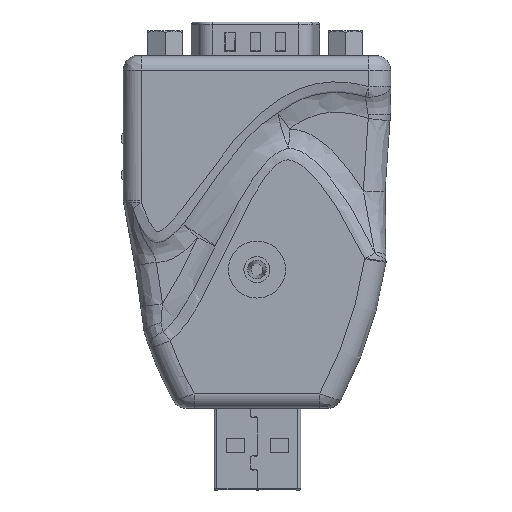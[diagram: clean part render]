
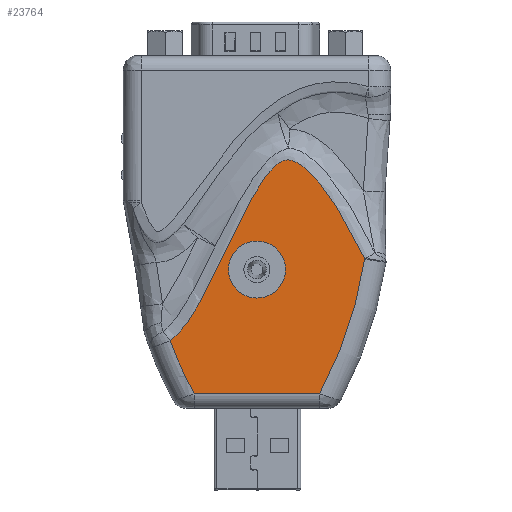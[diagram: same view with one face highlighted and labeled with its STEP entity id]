
A CAD part, front view. The second image highlights one B-rep face of the part: STEP entity #23764.
In plain terms, the highlighted planar face has unit normal (0, -1, 0).
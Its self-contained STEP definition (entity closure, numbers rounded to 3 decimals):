
#415=FACE_BOUND('',#5105,.T.);
#838=PLANE('',#25796);
#1566=B_SPLINE_CURVE_WITH_KNOTS('',3,(#58831,#58832,#58833,#58834,#58835,
#58836,#58837,#58838,#58839,#58840,#58841,#58842,#58843,#58844,#58845,#58846,
#58847,#58848,#58849,#58850,#58851,#58852,#58853),.UNSPECIFIED.,.F.,.F.,
(4,1,1,1,1,1,1,1,1,1,1,1,1,1,1,1,1,1,1,1,4),(0.173,0.86,
1.203,1.547,1.718,1.804,1.89,
1.933,1.976,2.019,2.062,2.147,
2.233,2.319,2.405,2.577,2.92,
3.778,4.293,4.637,4.98),
 .UNSPECIFIED.);
#2317=CIRCLE('',#25732,3.95);
#2351=CIRCLE('',#25790,56.046);
#2356=CIRCLE('',#25797,56.046);
#2357=CIRCLE('',#25798,56.046);
#3576=FACE_OUTER_BOUND('',#5104,.T.);
#5104=EDGE_LOOP('',(#19603,#19604,#19605,#19606,#19607));
#5105=EDGE_LOOP('',(#19608));
#6906=LINE('',#58826,#8769);
#8769=VECTOR('',#30643,10.);
#10895=VERTEX_POINT('',#55615);
#10947=VERTEX_POINT('',#58573);
#10949=VERTEX_POINT('',#58583);
#10964=VERTEX_POINT('',#58825);
#10965=VERTEX_POINT('',#58827);
#10966=VERTEX_POINT('',#58829);
#13880=EDGE_CURVE('',#10895,#10895,#2317,.T.);
#13980=EDGE_CURVE('',#10949,#10947,#2351,.T.);
#14000=EDGE_CURVE('',#10947,#10964,#6906,.T.);
#14001=EDGE_CURVE('',#10964,#10965,#2356,.T.);
#14002=EDGE_CURVE('',#10965,#10966,#2357,.T.);
#14003=EDGE_CURVE('',#10966,#10949,#1566,.T.);
#19603=ORIENTED_EDGE('',*,*,#13980,.T.);
#19604=ORIENTED_EDGE('',*,*,#14000,.T.);
#19605=ORIENTED_EDGE('',*,*,#14001,.T.);
#19606=ORIENTED_EDGE('',*,*,#14002,.T.);
#19607=ORIENTED_EDGE('',*,*,#14003,.T.);
#19608=ORIENTED_EDGE('',*,*,#13880,.T.);
#23764=ADVANCED_FACE('',(#3576,#415),#838,.F.);
#25732=AXIS2_PLACEMENT_3D('',#55617,#30502,#30503);
#25790=AXIS2_PLACEMENT_3D('',#58586,#30629,#30630);
#25796=AXIS2_PLACEMENT_3D('',#58824,#30641,#30642);
#25797=AXIS2_PLACEMENT_3D('',#58828,#30644,#30645);
#25798=AXIS2_PLACEMENT_3D('',#58830,#30646,#30647);
#30502=DIRECTION('center_axis',(0.,1.,0.));
#30503=DIRECTION('ref_axis',(-1.,0.,0.));
#30629=DIRECTION('center_axis',(0.,-1.,0.));
#30630=DIRECTION('ref_axis',(-0.915,0.,-0.403));
#30641=DIRECTION('center_axis',(0.,1.,0.));
#30642=DIRECTION('ref_axis',(1.,0.,0.));
#30643=DIRECTION('',(1.,0.,0.));
#30644=DIRECTION('center_axis',(0.,-1.,0.));
#30645=DIRECTION('ref_axis',(0.941,0.,-0.338));
#30646=DIRECTION('center_axis',(0.,-1.,0.));
#30647=DIRECTION('ref_axis',(0.976,0.,-0.216));
#55615=CARTESIAN_POINT('',(3.95,-9.25,-29.6));
#55617=CARTESIAN_POINT('Origin',(0.,-9.25,-29.6));
#58573=CARTESIAN_POINT('',(-8.677,-9.25,-46.8));
#58583=CARTESIAN_POINT('',(-12.012,-9.25,-39.463));
#58586=CARTESIAN_POINT('Origin',(40.546,-9.25,-20.));
#58824=CARTESIAN_POINT('Origin',(0.,-9.25,-24.4));
#58825=CARTESIAN_POINT('',(8.677,-9.25,-46.8));
#58826=CARTESIAN_POINT('',(5.5,-9.25,-46.8));
#58827=CARTESIAN_POINT('',(14.902,-9.25,-28.163));
#58828=CARTESIAN_POINT('Origin',(-40.546,-9.25,-20.));
#58829=CARTESIAN_POINT('',(14.919,-9.25,-28.048));
#58830=CARTESIAN_POINT('Origin',(-40.546,-9.25,-20.));
#58831=CARTESIAN_POINT('Ctrl Pts',(14.919,-9.25,-28.048));
#58832=CARTESIAN_POINT('Ctrl Pts',(13.928,-9.25,-25.98));
#58833=CARTESIAN_POINT('Ctrl Pts',(12.34,-9.25,-22.914));
#58834=CARTESIAN_POINT('Ctrl Pts',(9.873,-9.25,-19.066));
#58835=CARTESIAN_POINT('Ctrl Pts',(8.077,-9.25,-16.804));
#58836=CARTESIAN_POINT('Ctrl Pts',(6.597,-9.25,-15.45));
#58837=CARTESIAN_POINT('Ctrl Pts',(5.631,-9.25,-14.813));
#58838=CARTESIAN_POINT('Ctrl Pts',(4.973,-9.25,-14.524));
#58839=CARTESIAN_POINT('Ctrl Pts',(4.404,-9.25,-14.417));
#58840=CARTESIAN_POINT('Ctrl Pts',(3.97,-9.25,-14.437));
#58841=CARTESIAN_POINT('Ctrl Pts',(3.553,-9.25,-14.564));
#58842=CARTESIAN_POINT('Ctrl Pts',(3.046,-9.25,-14.829));
#58843=CARTESIAN_POINT('Ctrl Pts',(2.472,-9.25,-15.279));
#58844=CARTESIAN_POINT('Ctrl Pts',(1.875,-9.25,-15.892));
#58845=CARTESIAN_POINT('Ctrl Pts',(1.327,-9.25,-16.556));
#58846=CARTESIAN_POINT('Ctrl Pts',(0.65,-9.25,-17.489));
#58847=CARTESIAN_POINT('Ctrl Pts',(-0.421,-9.25,-19.183));
#58848=CARTESIAN_POINT('Ctrl Pts',(-2.572,-9.25,-23.225));
#58849=CARTESIAN_POINT('Ctrl Pts',(-4.925,-9.25,
-28.444));
#58850=CARTESIAN_POINT('Ctrl Pts',(-7.495,-9.25,-33.588));
#58851=CARTESIAN_POINT('Ctrl Pts',(-9.576,-9.25,
-37.));
#58852=CARTESIAN_POINT('Ctrl Pts',(-11.1,-9.25,-38.77));
#58853=CARTESIAN_POINT('Ctrl Pts',(-12.012,-9.25,-39.463));
